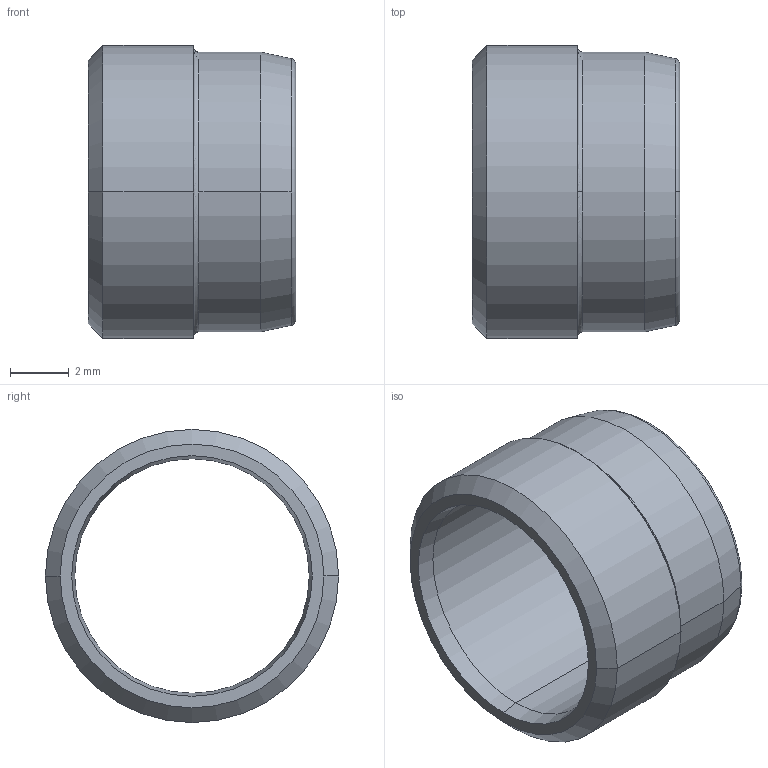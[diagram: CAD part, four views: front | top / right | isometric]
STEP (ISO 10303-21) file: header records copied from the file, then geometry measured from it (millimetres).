
FILE_DESCRIPTION((''),'2;1');
FILE_NAME('100103.stp','2006-03-06T15:07:57',('Dario Falcomer'),('CAST S.p.A.'),'AutoCAD STEP 2000i','AutoCAD 2000i',', , ');
FILE_SCHEMA(('CONFIG_CONTROL_DESIGN'));
Length unit declared in the file: millimetre
Products named in the file (2): 100103.0; 1001ESTERNO#0
Assembly tree (1 placements, depth 2):
  100103.0
    1001ESTERNO#0
Bounding box: 7.08 x 10 x 10 mm (x, y, z)
Volume: 162.9 mm3; surface area: 436 mm2
Topology: 1 solids, 1 shells, 26 faces, 61 edges, 39 vertices
Faces by surface type: cone 8, bspline 6, cylinder 6, plane 4, torus 2
Entity records: 1125 total; most frequent: CARTESIAN_POINT 392, DIRECTION 152, ORIENTED_EDGE 122, AXIS2_PLACEMENT_3D 69, EDGE_CURVE 61, CIRCLE 47, VERTEX_POINT 39, EDGE_LOOP 30
